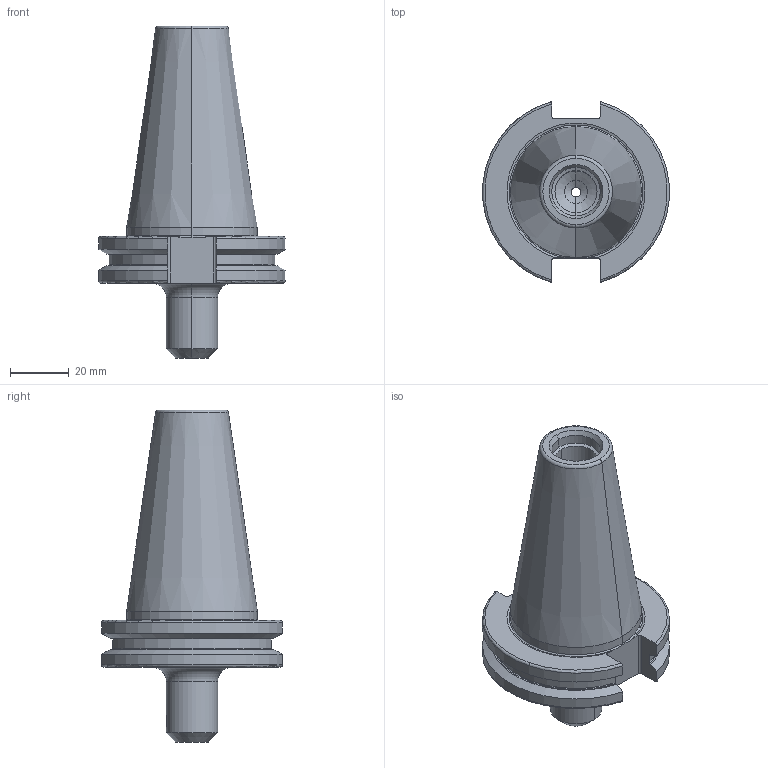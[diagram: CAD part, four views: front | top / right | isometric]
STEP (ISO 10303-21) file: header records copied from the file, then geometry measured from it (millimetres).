
FILE_DESCRIPTION (( 'STEP AP214' ), '1' );
FILE_NAME ('RC4EM0125175.STEP', '2019-02-08T14:02:48', ( '' ), ( '' ), 'SwSTEP 2.0', 'SolidWorks 2019', '' );
FILE_SCHEMA (( 'AUTOMOTIVE_DESIGN' ));
Length unit declared in the file: inch
Products named in the file (1): RC4EM0125175
Bounding box: 63.26 x 61.35 x 112.7 mm (x, y, z)
Volume: 105727.6 mm3; surface area: 21966.1 mm2
Topology: 1 solids, 1 shells, 115 faces, 292 edges, 178 vertices
Faces by surface type: plane 36, cylinder 34, cone 31, torus 14
Entity records: 3757 total; most frequent: CARTESIAN_POINT 914, DIRECTION 589, ORIENTED_EDGE 576, EDGE_CURVE 288, AXIS2_PLACEMENT_3D 231, VERTEX_POINT 178, LINE 127, VECTOR 127
